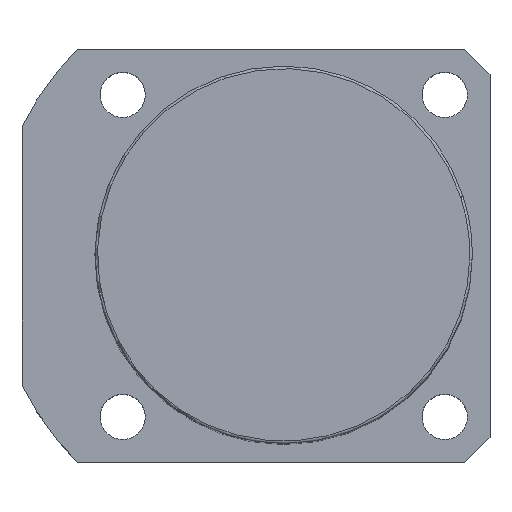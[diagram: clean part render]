
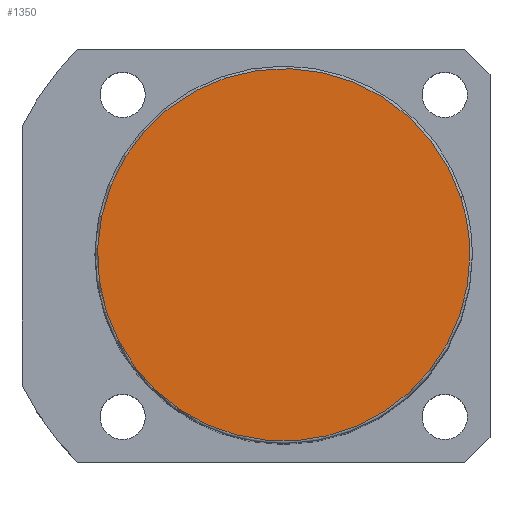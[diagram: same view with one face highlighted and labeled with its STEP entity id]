
A CAD part, top view. The second image highlights one B-rep face of the part: STEP entity #1350.
In plain terms, the highlighted planar face has unit normal (0, 0, 1).
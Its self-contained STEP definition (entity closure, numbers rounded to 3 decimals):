
#1283=CARTESIAN_POINT('',(35.189,11.434,133.0));
#1284=VERTEX_POINT('',#1283);
#1302=CARTESIAN_POINT('',(-35.189,-11.434,133.0));
#1303=VERTEX_POINT('',#1302);
#1311=CARTESIAN_POINT('',(0.0,0.0,133.0));
#1312=DIRECTION('',(0.0,0.0,1.0));
#1313=DIRECTION('',(1.0,0.0,0.0));
#1314=AXIS2_PLACEMENT_3D('',#1311,#1312,#1313);
#1315=CIRCLE('',#1314,37.0);
#1316=EDGE_CURVE('no 4012',#1284,#1303,#1315,.T.);
#1326=CARTESIAN_POINT('',(37.0,0.0,133.0));
#1327=VERTEX_POINT('',#1326);
#1328=CARTESIAN_POINT('',(0.0,0.0,133.0));
#1329=DIRECTION('',(0.0,0.0,1.0));
#1330=DIRECTION('',(1.0,0.0,0.0));
#1331=AXIS2_PLACEMENT_3D('',#1328,#1329,#1330);
#1332=CIRCLE('',#1331,37.0);
#1333=EDGE_CURVE('no 4021',#1327,#1284,#1332,.T.);
#1334=ORIENTED_EDGE('',*,*,#1333,.T.);
#1335=ORIENTED_EDGE('',*,*,#1316,.T.);
#1336=CARTESIAN_POINT('',(0.0,0.0,133.0));
#1337=DIRECTION('',(0.0,0.0,1.0));
#1338=DIRECTION('',(1.0,0.0,0.0));
#1339=AXIS2_PLACEMENT_3D('',#1336,#1337,#1338);
#1340=CIRCLE('',#1339,37.0);
#1341=EDGE_CURVE('no 4027',#1303,#1327,#1340,.T.);
#1342=ORIENTED_EDGE('',*,*,#1341,.T.);
#1343=EDGE_LOOP('',(#1334,#1335,#1342));
#1344=FACE_OUTER_BOUND('',#1343,.T.);
#1345=CARTESIAN_POINT('',(0.0,0.0,133.0));
#1346=DIRECTION('',(0.0,0.0,1.0));
#1347=DIRECTION('',(1.0,0.0,0.0));
#1348=AXIS2_PLACEMENT_3D('',#1345,#1346,#1347);
#1349=PLANE('',#1348);
#1350=ADVANCED_FACE('no 4014',(#1344),#1349,.T.);
